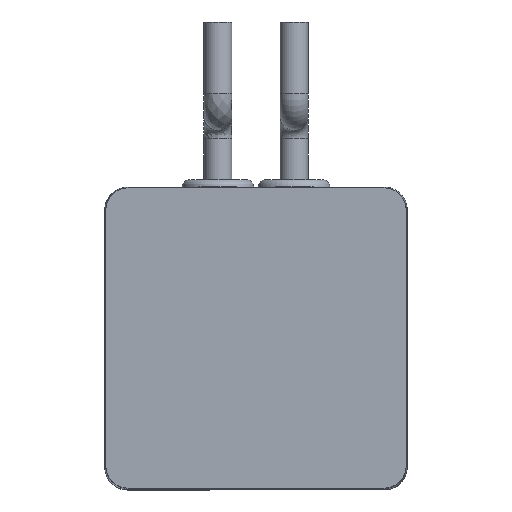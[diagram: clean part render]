
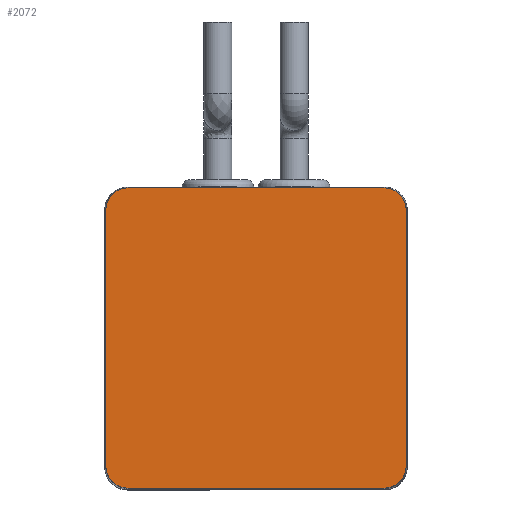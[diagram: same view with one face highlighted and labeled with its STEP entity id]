
A CAD part, top view. The second image highlights one B-rep face of the part: STEP entity #2072.
In plain terms, the highlighted planar face has unit normal (0, 0, 1).
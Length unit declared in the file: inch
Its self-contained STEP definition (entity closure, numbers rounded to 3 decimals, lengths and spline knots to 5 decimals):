
#1228=CARTESIAN_POINT('',(-0.425,1.675,5.195));
#1229=VERTEX_POINT('',#1228);
#1354=CARTESIAN_POINT('',(0.425,1.675,5.195));
#1355=VERTEX_POINT('',#1354);
#1356=CARTESIAN_POINT('',(-0.425,1.675,5.195));
#1357=DIRECTION('',(1.0,0.0,0.0));
#1358=VECTOR('',#1357,0.85);
#1359=LINE('',#1356,#1358);
#1360=EDGE_CURVE('',#1229,#1355,#1359,.T.);
#1554=CARTESIAN_POINT('',(-1.425,1.675,5.195));
#1555=VERTEX_POINT('',#1554);
#1562=CARTESIAN_POINT('',(-1.425,1.675,5.195));
#1563=DIRECTION('',(1.0,0.0,0.0));
#1564=VECTOR('',#1563,1.);
#1565=LINE('',#1562,#1564);
#1566=EDGE_CURVE('',#1555,#1229,#1565,.T.);
#1577=CARTESIAN_POINT('',(1.425,1.675,5.195));
#1578=VERTEX_POINT('',#1577);
#1579=CARTESIAN_POINT('',(0.425,1.675,5.195));
#1580=DIRECTION('',(1.0,0.0,0.0));
#1581=VECTOR('',#1580,1.);
#1582=LINE('',#1579,#1581);
#1583=EDGE_CURVE('',#1355,#1578,#1582,.T.);
#1634=CARTESIAN_POINT('',(1.675,1.425,5.195));
#1635=VERTEX_POINT('',#1634);
#1642=CARTESIAN_POINT('',(1.675,-1.425,5.195));
#1643=VERTEX_POINT('',#1642);
#1644=CARTESIAN_POINT('',(1.675,1.425,5.195));
#1645=DIRECTION('',(0.0,-1.0,0.0));
#1646=VECTOR('',#1645,2.85);
#1647=LINE('',#1644,#1646);
#1648=EDGE_CURVE('',#1635,#1643,#1647,.T.);
#1712=CARTESIAN_POINT('',(1.425,1.425,5.195));
#1713=DIRECTION('',(0.0,0.0,-1.));
#1714=DIRECTION('',(0.707,0.707,0.0));
#1715=AXIS2_PLACEMENT_3D('',#1712,#1713,#1714);
#1716=CIRCLE('',#1715,0.25);
#1717=EDGE_CURVE('',#1578,#1635,#1716,.T.);
#1801=CARTESIAN_POINT('',(-1.675,1.425,5.195));
#1802=VERTEX_POINT('',#1801);
#1809=CARTESIAN_POINT('',(-1.425,1.425,5.195));
#1810=DIRECTION('',(0.0,0.0,-1.));
#1811=DIRECTION('',(-0.707,0.707,0.0));
#1812=AXIS2_PLACEMENT_3D('',#1809,#1810,#1811);
#1813=CIRCLE('',#1812,0.25);
#1814=EDGE_CURVE('',#1802,#1555,#1813,.T.);
#1887=CARTESIAN_POINT('',(1.425,-1.675,5.195));
#1888=VERTEX_POINT('',#1887);
#1895=CARTESIAN_POINT('',(-1.425,-1.675,5.195));
#1896=VERTEX_POINT('',#1895);
#1897=CARTESIAN_POINT('',(1.425,-1.675,5.195));
#1898=DIRECTION('',(-1.0,0.0,0.0));
#1899=VECTOR('',#1898,2.85);
#1900=LINE('',#1897,#1899);
#1901=EDGE_CURVE('',#1888,#1896,#1900,.T.);
#1919=CARTESIAN_POINT('',(1.425,-1.425,5.195));
#1920=DIRECTION('',(0.0,0.0,-1.));
#1921=DIRECTION('',(0.707,-0.707,0.0));
#1922=AXIS2_PLACEMENT_3D('',#1919,#1920,#1921);
#1923=CIRCLE('',#1922,0.25);
#1924=EDGE_CURVE('',#1643,#1888,#1923,.T.);
#2031=CARTESIAN_POINT('',(-1.675,-1.425,5.195));
#2032=VERTEX_POINT('',#2031);
#2039=CARTESIAN_POINT('',(-1.675,-1.425,5.195));
#2040=DIRECTION('',(0.0,1.0,0.0));
#2041=VECTOR('',#2040,2.85);
#2042=LINE('',#2039,#2041);
#2043=EDGE_CURVE('',#2032,#1802,#2042,.T.);
#2049=CARTESIAN_POINT('',(0.,0.,5.195));
#2050=DIRECTION('',(0.0,0.0,1.0));
#2051=DIRECTION('',(1.0,0.0,0.0));
#2052=AXIS2_PLACEMENT_3D('',#2049,#2050,#2051);
#2053=PLANE('',#2052);
#2054=CARTESIAN_POINT('',(-1.425,-1.425,5.195));
#2055=DIRECTION('',(0.0,0.0,-1.));
#2056=DIRECTION('',(-0.707,-0.707,0.0));
#2057=AXIS2_PLACEMENT_3D('',#2054,#2055,#2056);
#2058=CIRCLE('',#2057,0.25);
#2059=EDGE_CURVE('',#1896,#2032,#2058,.T.);
#2060=ORIENTED_EDGE('',*,*,#2059,.F.);
#2061=ORIENTED_EDGE('',*,*,#1901,.F.);
#2062=ORIENTED_EDGE('',*,*,#1924,.F.);
#2063=ORIENTED_EDGE('',*,*,#1648,.F.);
#2064=ORIENTED_EDGE('',*,*,#1717,.F.);
#2065=ORIENTED_EDGE('',*,*,#1583,.F.);
#2066=ORIENTED_EDGE('',*,*,#1360,.F.);
#2067=ORIENTED_EDGE('',*,*,#1566,.F.);
#2068=ORIENTED_EDGE('',*,*,#1814,.F.);
#2069=ORIENTED_EDGE('',*,*,#2043,.F.);
#2070=EDGE_LOOP('',(#2060,#2061,#2062,#2063,#2064,#2065,#2066,#2067,#2068,#2069));
#2071=FACE_OUTER_BOUND('',#2070,.T.);
#2072=ADVANCED_FACE('',(#2071),#2053,.T.);
